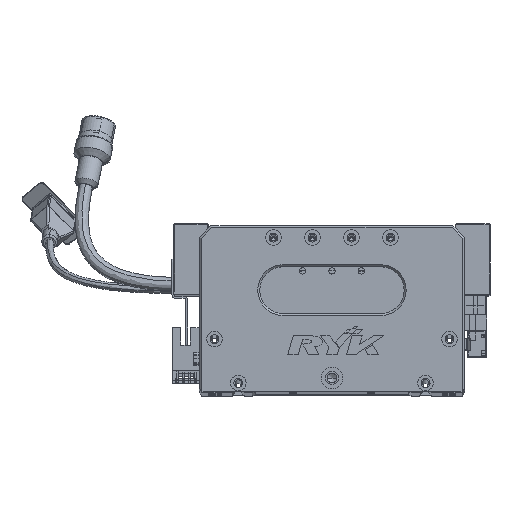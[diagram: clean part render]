
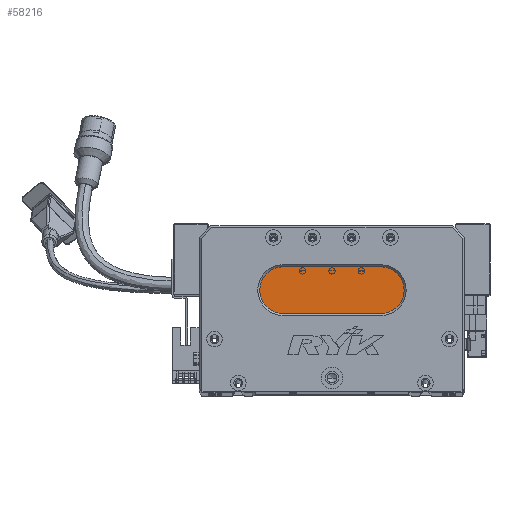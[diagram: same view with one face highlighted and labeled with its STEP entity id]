
A CAD part, top view. The second image highlights one B-rep face of the part: STEP entity #58216.
In plain terms, the highlighted planar face has unit normal (0, 0, 1) as drawn and (0, 0, -1) by its records, which use the part's own axes.
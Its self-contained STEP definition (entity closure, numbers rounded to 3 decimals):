
#319 = AXIS2_PLACEMENT_3D ( 'NONE', #40958, #49109, #39923 ) ;
#936 = CARTESIAN_POINT ( 'NONE',  ( 93., 40., 13. ) ) ;
#1648 = CIRCLE ( 'NONE', #41935, 12. ) ;
#2229 = FACE_OUTER_BOUND ( 'NONE', #40058, .T. ) ;
#5235 = VERTEX_POINT ( 'NONE', #70364 ) ;
#8254 = DIRECTION ( 'NONE',  ( 0., 0., -1. ) ) ;
#8257 = VERTEX_POINT ( 'NONE', #66410 ) ;
#11991 = CARTESIAN_POINT ( 'NONE',  ( 43., 64., 13. ) ) ;
#13082 = CARTESIAN_POINT ( 'NONE',  ( 93., 40., 13. ) ) ;
#13369 = AXIS2_PLACEMENT_3D ( 'NONE', #14862, #70322, #83862 ) ;
#14862 = CARTESIAN_POINT ( 'NONE',  ( 43., 52., 13. ) ) ;
#14876 = EDGE_CURVE ( 'NONE', #8257, #76620, #60306, .T. ) ;
#16538 = DIRECTION ( 'NONE',  ( 0., 0., -1. ) ) ;
#17876 = EDGE_CURVE ( 'NONE', #76620, #25965, #19077, .T. ) ;
#19077 = LINE ( 'NONE', #936, #21297 ) ;
#19154 = CARTESIAN_POINT ( 'NONE',  ( 43., 40., 13. ) ) ;
#21297 = VECTOR ( 'NONE', #28075, 1000. ) ;
#22928 = CARTESIAN_POINT ( 'NONE',  ( 43., 52., 13. ) ) ;
#23866 = DIRECTION ( 'NONE',  ( 1., 0., 0. ) ) ;
#25965 = VERTEX_POINT ( 'NONE', #19154 ) ;
#27732 = ORIENTED_EDGE ( 'NONE', *, *, #59995, .T. ) ;
#28075 = DIRECTION ( 'NONE',  ( -1., 0., 0. ) ) ;
#34796 = CARTESIAN_POINT ( 'NONE',  ( 93., 52., 13. ) ) ;
#38544 = ORIENTED_EDGE ( 'NONE', *, *, #76748, .T. ) ;
#39923 = DIRECTION ( 'NONE',  ( -1., 0., 0. ) ) ;
#40058 = EDGE_LOOP ( 'NONE', ( #49497, #53005, #75418, #38544, #27732 ) ) ;
#40477 = VERTEX_POINT ( 'NONE', #11991 ) ;
#40958 = CARTESIAN_POINT ( 'NONE',  ( 93., 52., 13. ) ) ;
#41935 = AXIS2_PLACEMENT_3D ( 'NONE', #22928, #16538, #84924 ) ;
#48378 = EDGE_CURVE ( 'NONE', #25965, #5235, #1648, .T. ) ;
#49043 = DIRECTION ( 'NONE',  ( -1., 0., 0. ) ) ;
#49109 = DIRECTION ( 'NONE',  ( 0., 0., -1. ) ) ;
#49497 = ORIENTED_EDGE ( 'NONE', *, *, #14876, .T. ) ;
#49955 = VECTOR ( 'NONE', #23866, 1000. ) ;
#50956 = CIRCLE ( 'NONE', #13369, 12. ) ;
#52132 = LINE ( 'NONE', #65942, #49955 ) ;
#53005 = ORIENTED_EDGE ( 'NONE', *, *, #17876, .T. ) ;
#57305 = AXIS2_PLACEMENT_3D ( 'NONE', #34796, #8254, #49043 ) ;
#58216 = ADVANCED_FACE ( 'NONE', ( #2229 ), #85139, .T. ) ;
#59995 = EDGE_CURVE ( 'NONE', #40477, #8257, #52132, .T. ) ;
#60306 = CIRCLE ( 'NONE', #57305, 12. ) ;
#65942 = CARTESIAN_POINT ( 'NONE',  ( 93., 64., 13. ) ) ;
#66410 = CARTESIAN_POINT ( 'NONE',  ( 93., 64., 13. ) ) ;
#70322 = DIRECTION ( 'NONE',  ( 0., 0., -1. ) ) ;
#70364 = CARTESIAN_POINT ( 'NONE',  ( 31., 52., 13. ) ) ;
#75418 = ORIENTED_EDGE ( 'NONE', *, *, #48378, .T. ) ;
#76620 = VERTEX_POINT ( 'NONE', #13082 ) ;
#76748 = EDGE_CURVE ( 'NONE', #5235, #40477, #50956, .T. ) ;
#83862 = DIRECTION ( 'NONE',  ( -1., 0., 0. ) ) ;
#84924 = DIRECTION ( 'NONE',  ( -1., 0., 0. ) ) ;
#85139 = PLANE ( 'NONE',  #319 ) ;
